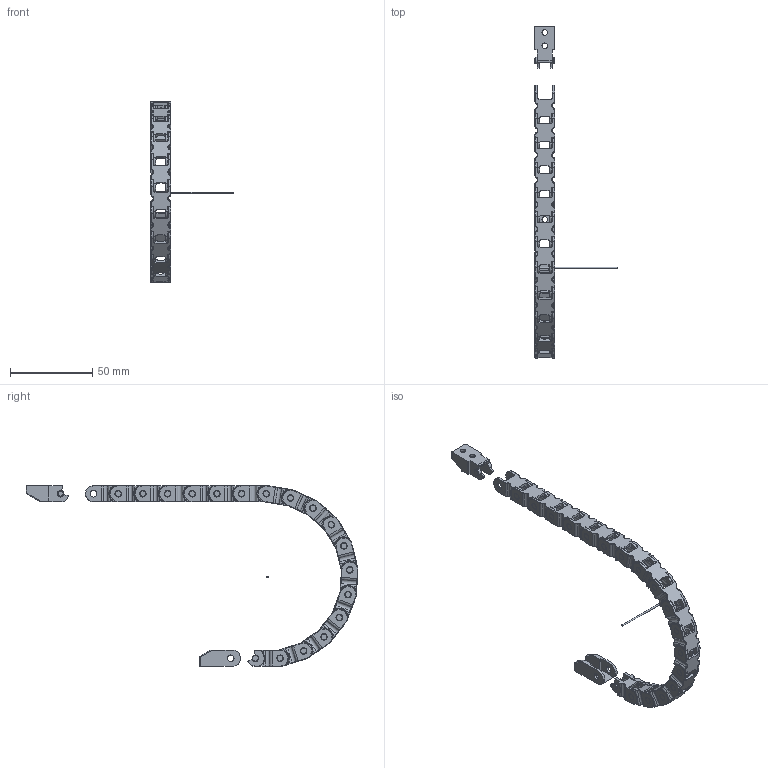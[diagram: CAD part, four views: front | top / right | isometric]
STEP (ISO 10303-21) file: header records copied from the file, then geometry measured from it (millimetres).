
FILE_DESCRIPTION((''),'2;1');
FILE_NAME('C:\Uebbing\PARAMETERKETTEN\KOLIBRI\Kol_10_012_4\KOLIBRI 10_012_4_R50.stp','2012-03-02T11:59:36',('Uebbing'),(''),'Autodesk Inventor 10','Autodesk Inventor 10','');
FILE_SCHEMA(('AUTOMOTIVE_DESIGN { 1 0 10303 214 1 1 1 1 }'));
Length unit declared in the file: millimetre
Products named in the file (5): KOLIBRI 10_012_4; Achse; Kol_10_012_4 Lasche; Kol_10_012_4_Anschluss_Bohrung 1576; Kol_10_012_4_Anschluss_Zapfen 1814
Assembly tree (21 placements, depth 2):
  KOLIBRI 10_012_4
    Achse
    Kol_10_012_4 Lasche  x18
    Kol_10_012_4_Anschluss_Bohrung 1576
    Kol_10_012_4_Anschluss_Zapfen 1814
Bounding box: 50 x 201.74 x 110 mm (x, y, z)
Volume: 18375.2 mm3; surface area: 26625.5 mm2
Topology: 21 solids, 21 shells, 2317 faces, 5952 edges, 3533 vertices
Faces by surface type: cylinder 928, plane 667, torus 360, bspline 288, cone 74
Full cylindrical faces by diameter (mm): 1 x1, 3.35 x4, 4 x76
Entity records: 7294 total; most frequent: CARTESIAN_POINT 2418, DIRECTION 1050, ORIENTED_EDGE 932, EDGE_CURVE 466, AXIS2_PLACEMENT_3D 410, VERTEX_POINT 299, VECTOR 230, LINE 230
